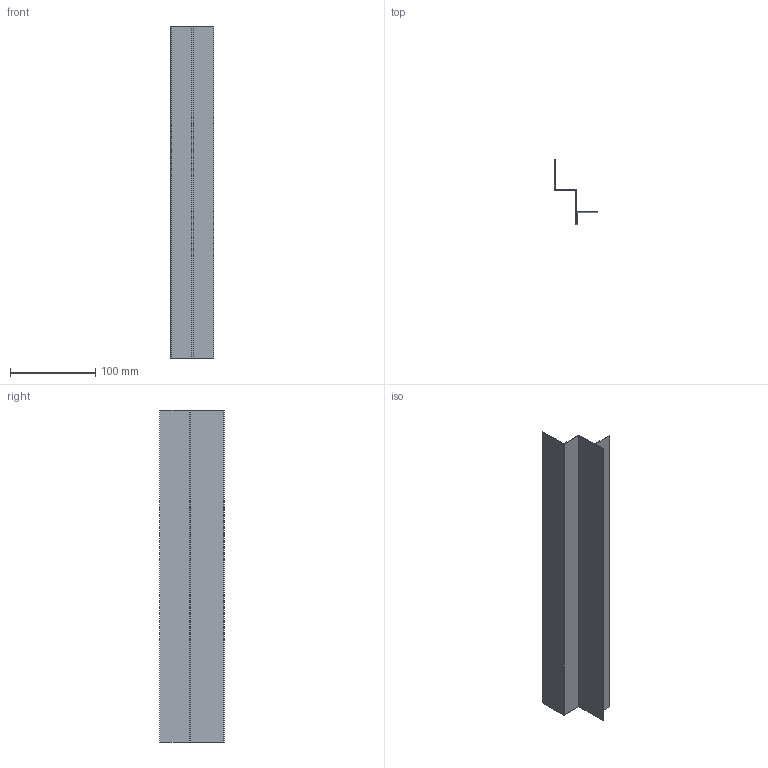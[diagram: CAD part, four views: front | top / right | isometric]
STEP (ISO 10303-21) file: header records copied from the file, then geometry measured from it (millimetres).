
FILE_DESCRIPTION (( 'STEP AP214' ), '1' );
FILE_NAME ('FRAME LAMIERA NEW.STEP', '2024-04-22T06:33:58', ( '' ), ( '' ), 'SwSTEP 2.0', 'SolidWorks 2021', '' );
FILE_SCHEMA (( 'AUTOMOTIVE_DESIGN' ));
Length unit declared in the file: millimetre
Products named in the file (1): FRAME LAMIERA NEW
Bounding box: 50.55 x 75.81 x 390 mm (x, y, z)
Volume: 37963.3 mm3; surface area: 109159.6 mm2
Topology: 1 solids, 1 shells, 23 faces, 63 edges, 42 vertices
Faces by surface type: plane 16, cylinder 7
Entity records: 765 total; most frequent: CARTESIAN_POINT 129, ORIENTED_EDGE 126, DIRECTION 125, EDGE_CURVE 63, VECTOR 49, LINE 49, VERTEX_POINT 42, AXIS2_PLACEMENT_3D 38
